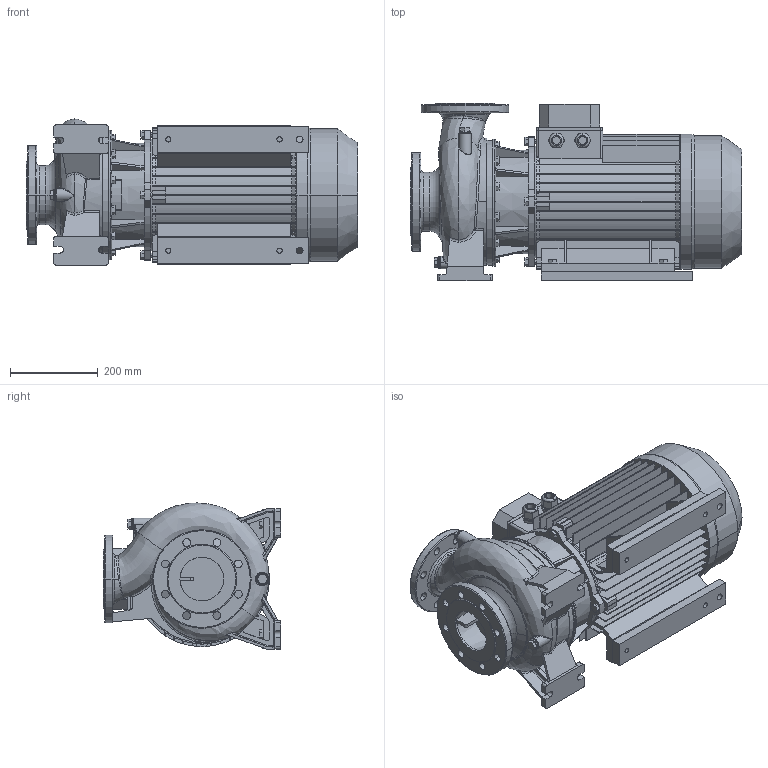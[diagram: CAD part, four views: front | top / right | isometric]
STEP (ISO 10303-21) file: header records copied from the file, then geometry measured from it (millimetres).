
FILE_DESCRIPTION((''),'2;1');
FILE_NAME('3M_80-160_18_5_IE2_ASM','2011-04-22T',('Utente'),('"Ebara Pumps Europe +39.444.706811"'),'PRO/ENGINEER BY PARAMETRIC TECHNOLOGY CORPORATION, 2009360','PRO/ENGINEER BY PARAMETRIC TECHNOLOGY CORPORATION, 2009360','');
FILE_SCHEMA(('AUTOMOTIVE_DESIGN { 1 0 10303 214 1 1 1 1 }'));
Length unit declared in the file: millimetre
Products named in the file (6): CORPO_POMPA_80-160; SUPPORTO_3M_230_160_H109; MEC_160X170_210_250_IE2; SOSTEGNO_72095; TESTA_VITE_TE_M12; 3M_80-160_18_5_IE2_ASM
Assembly tree (9 placements, depth 2):
  3M_80-160_18_5_IE2_ASM
    CORPO_POMPA_80-160
    SUPPORTO_3M_230_160_H109
    MEC_160X170_210_250_IE2
    SOSTEGNO_72095  x2
    TESTA_VITE_TE_M12  x4
Bounding box: 757 x 405 x 333.81 mm (x, y, z)
Volume: 30039464.3 mm3; surface area: 2653155.2 mm2
Topology: 9 solids, 11 shells, 1137 faces, 2853 edges, 1785 vertices
Faces by surface type: plane 648, cylinder 258, bspline 98, cone 88, torus 35, sphere 10
Entity records: 45098 total; most frequent: CARTESIAN_POINT 13904, ORIENTED_EDGE 5500, DIRECTION 5154, EDGE_CURVE 2750, AXIS2_PLACEMENT_3D 1801, VERTEX_POINT 1717, VECTOR 1552, LINE 1552
